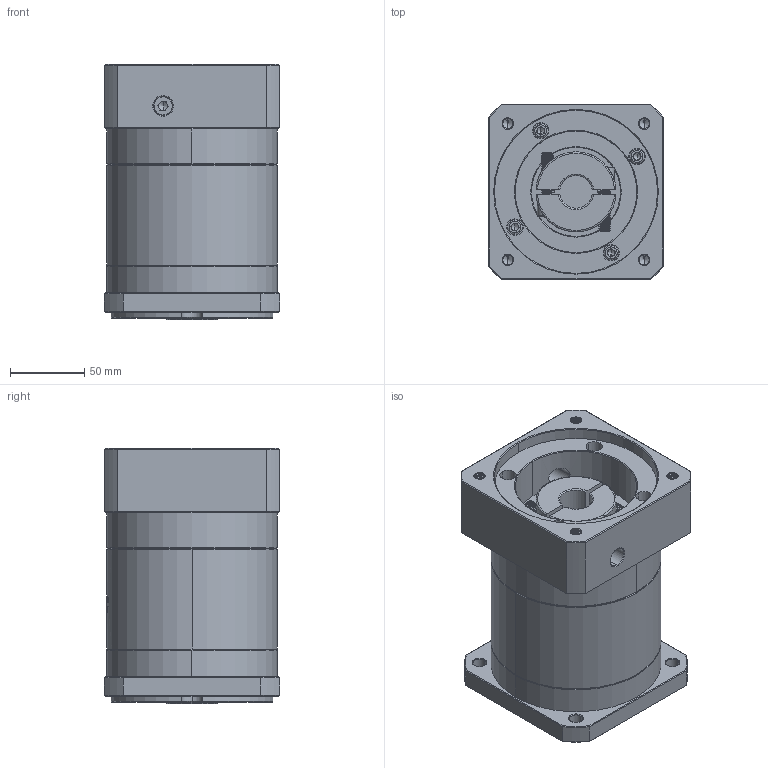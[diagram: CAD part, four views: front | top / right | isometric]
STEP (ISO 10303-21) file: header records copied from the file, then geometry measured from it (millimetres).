
FILE_DESCRIPTION (( 'STEP AP214' ), '1' );
FILE_NAME ('ZF120A-K25-L2-P2-22-110-130-M8.step', '2023-08-27T04:51:17', ( '' ), ( '' ), 'SwSTEP 2.0', 'SolidWorks 2016', '' );
FILE_SCHEMA (( 'AUTOMOTIVE_DESIGN' ));
Length unit declared in the file: millimetre
Products named in the file (1): ZF120A-K25-L2-P2-22-110-130-M8
Bounding box: 118 x 118 x 172 mm (x, y, z)
Volume: 1692463 mm3; surface area: 174522 mm2
Topology: 6 solids, 6 shells, 2179 faces, 5813 edges, 3739 vertices
Faces by surface type: plane 1027, bspline 430, cylinder 389, cone 333
Entity records: 118063 total; most frequent: CARTESIAN_POINT 45008, ORIENTED_EDGE 11570, DIRECTION 8407, EDGE_CURVE 5785, VERTEX_POINT 3739, LINE 3055, VECTOR 3055, AXIS2_PLACEMENT_3D 2676
